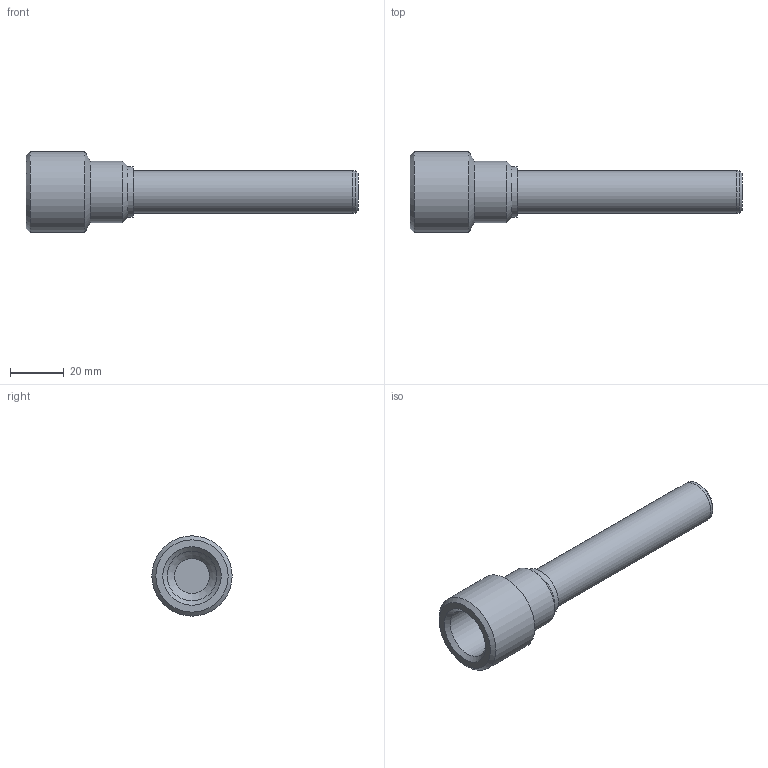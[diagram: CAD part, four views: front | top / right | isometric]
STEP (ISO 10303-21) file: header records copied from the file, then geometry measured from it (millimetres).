
FILE_DESCRIPTION(('TFLEX Exchange Step'),'2;1');
FILE_NAME('_Гильза ГЗ202-d10-P16-(G1_2)-H-M01.stp', '2020-10-06T20:48:36+05:00',('Алексей'),('Unknown organisation'),'TFLEX Exchange 2019.1','T-FLEX CAD','Unknown authorisation');
FILE_SCHEMA( ('AUTOMOTIVE_DESIGN { 1 0 10303 214 1 1 1 1 }') );
Length unit declared in the file: millimetre
Products named in the file (4): Заглушка З-16х1.5-01; Труба Т-16х1.5-L-01; Штуцер Ш-G1_2-02; _Гильза ГЗ202-d10-P16-(G1_2)-H-M01
Assembly tree (3 placements, depth 2):
  _Гильза ГЗ202-d10-P16-(G1_2)-H-M01
    Заглушка З-16х1.5-01
    Труба Т-16х1.5-L-01
    Штуцер Ш-G1_2-02
Bounding box: 124 x 30 x 30 mm (x, y, z)
Volume: 20404.7 mm3; surface area: 15141.6 mm2
Topology: 3 solids, 3 shells, 26 faces, 54 edges, 35 vertices
Faces by surface type: cylinder 12, plane 8, cone 6
Full cylindrical faces by diameter (mm): 13 x2, 16 x2, 18.631 x1, 19 x1, 23 x1, 30 x1
Entity records: 830 total; most frequent: DIRECTION 157, CARTESIAN_POINT 126, ORIENTED_EDGE 112, AXIS2_PLACEMENT_3D 68, EDGE_CURVE 56, VERTEX_POINT 37, CIRCLE 35, EDGE_LOOP 31
